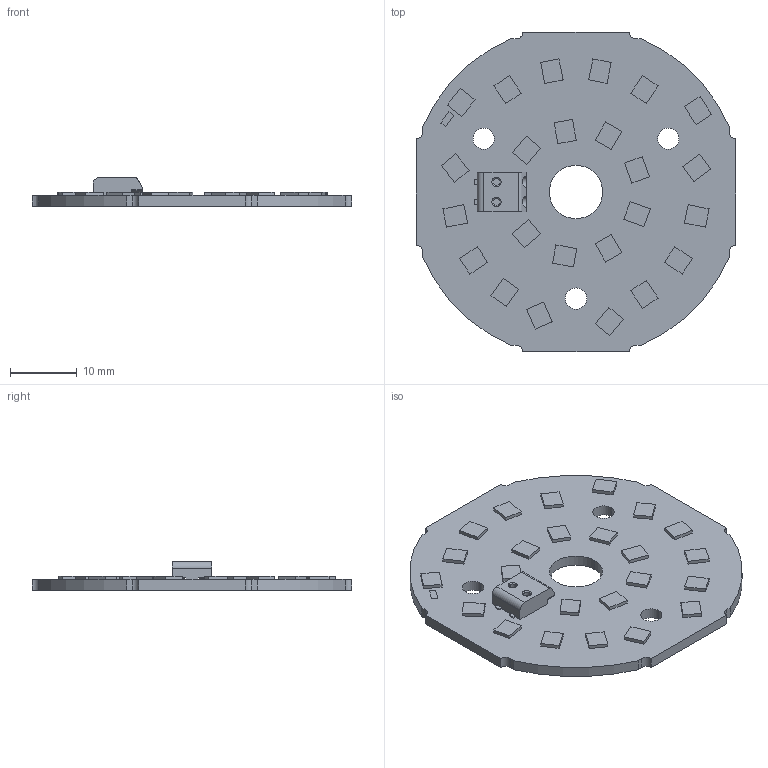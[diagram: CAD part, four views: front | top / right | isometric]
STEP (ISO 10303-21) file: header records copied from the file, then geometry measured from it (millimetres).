
FILE_DESCRIPTION((''),'2;1');
FILE_NAME('16208886_CLE-50-ADV5','2021-11-03T07:57:36',('Bernhard.Fink'),(''),'CREO PARAMETRIC BY PTC INC, 2019164','CREO PARAMETRIC BY PTC INC, 2019164','');
FILE_SCHEMA(('CONFIG_CONTROL_DESIGN'));
Length unit declared in the file: millimetre
Products named in the file (1): 16208886_CLE-50-ADV5
Bounding box: 48 x 48 x 4.35 mm (x, y, z)
Volume: 3259 mm3; surface area: 4382.2 mm2
Topology: 1 solids, 1 shells, 249 faces, 658 edges, 440 vertices
Faces by surface type: plane 192, cylinder 53, torus 4
Entity records: 9003 total; most frequent: CARTESIAN_POINT 2674, ORIENTED_EDGE 1316, DIRECTION 1242, EDGE_CURVE 658, VECTOR 532, LINE 532, VERTEX_POINT 440, AXIS2_PLACEMENT_3D 355
